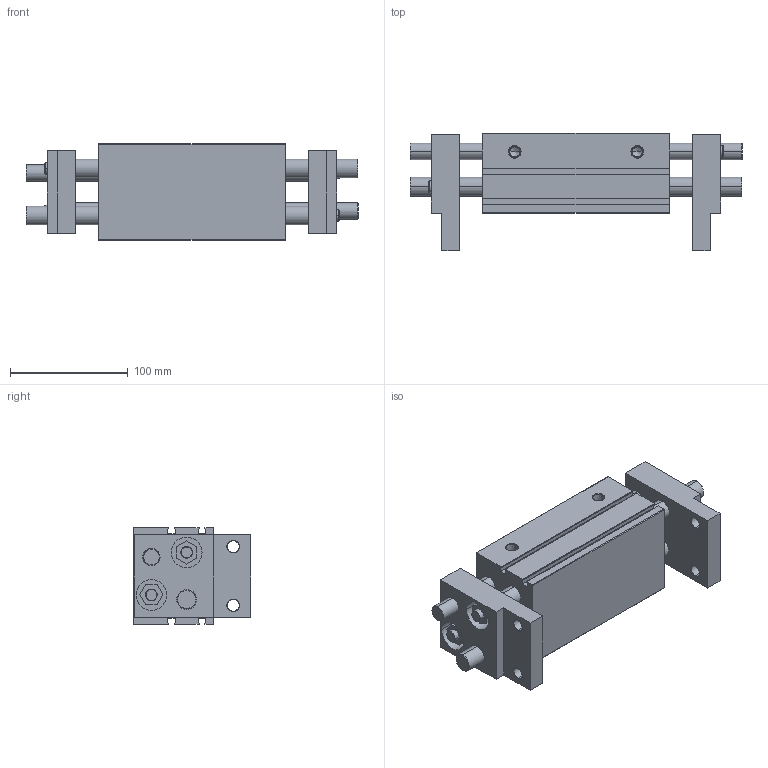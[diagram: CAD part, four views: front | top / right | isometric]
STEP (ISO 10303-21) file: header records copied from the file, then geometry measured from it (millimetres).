
FILE_DESCRIPTION (( 'STEP AP203' ), '1' );
FILE_NAME ('CHL2-32D1.STEP', '2017-06-06T20:09:01', ( '' ), ( '' ), 'SwSTEP 2.0', 'SolidWorks 2016', '' );
FILE_SCHEMA (( 'CONFIG_CONTROL_DESIGN' ));
Length unit declared in the file: millimetre
Products named in the file (3): CHL2-32D1 DEDO; CHL2-32D1; CHL2-32D1 CORPO
Assembly tree (3 placements, depth 2):
  CHL2-32D1
    CHL2-32D1 CORPO
    CHL2-32D1 DEDO  x2
Bounding box: 282 x 100 x 82 mm (x, y, z)
Volume: 1141995.9 mm3; surface area: 201094.4 mm2
Topology: 3 solids, 3 shells, 335 faces, 785 edges, 491 vertices
Faces by surface type: plane 125, cylinder 119, cone 91
Entity records: 7471 total; most frequent: DIRECTION 1334, CARTESIAN_POINT 1199, ORIENTED_EDGE 1150, EDGE_CURVE 575, AXIS2_PLACEMENT_3D 502, VERTEX_POINT 367, LINE 330, VECTOR 330
